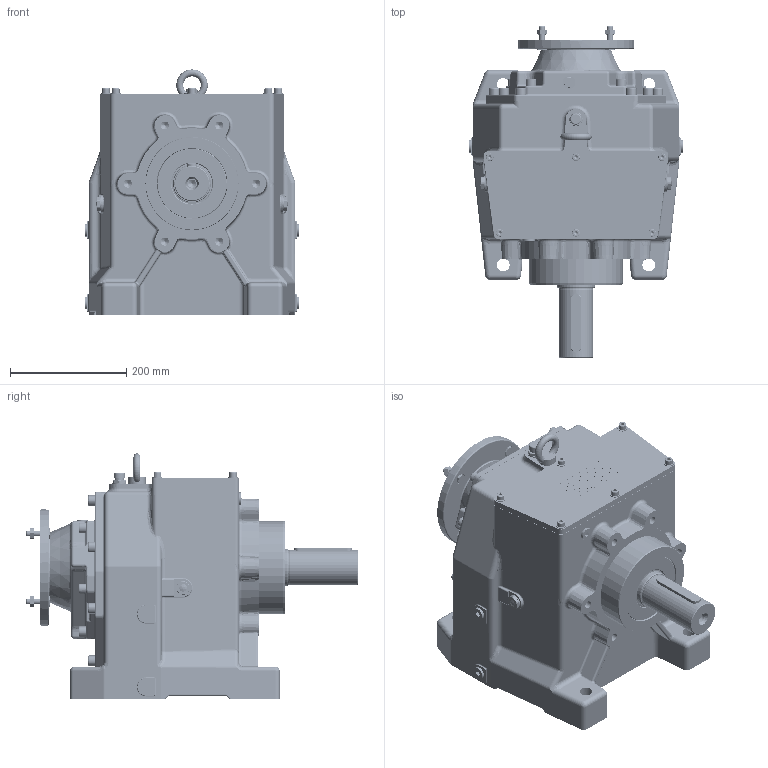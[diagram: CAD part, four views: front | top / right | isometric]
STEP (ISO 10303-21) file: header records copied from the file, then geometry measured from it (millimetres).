
FILE_DESCRIPTION((''),'2;1');
FILE_NAME('O:\Figurini\Figurini NHL\3D\60_3\MNHL 60_3\MNHL 60_3 PAM80 B5.stp','2013-09-10T10:49:12',('d.iannaccio'),(''),'Autodesk Inventor 2012','Autodesk Inventor 2012','');
FILE_SCHEMA(('AUTOMOTIVE_DESIGN { 1 0 10303 214 1 1 1 1 }'));
Length unit declared in the file: millimetre
Products named in the file (1): MNHL_60_3 PAM80 B5
Bounding box: 368 x 570 x 420.97 mm (x, y, z)
Volume: 11650580.7 mm3; surface area: 1920732 mm2
Topology: 51 solids, 53 shells, 6888 faces, 15974 edges, 9208 vertices
Faces by surface type: cylinder 2631, plane 1740, torus 1109, bspline 736, sphere 445, cone 227
Full cylindrical faces by diameter (mm): 6.647 x12, 8 x30, 8.4 x6, 8.5 x4, 9 x12, 10 x12, 10.106 x10, 11.5 x4, 12 x22, 13 x21, 13.835 x7, 14.63 x4, 14.95 x7, 16 x1, 17 x7, 18 x14, 18.98 x1, 19 x2, 19.5 x1, 19.7 x1, 20 x1, 22 x5, 23 x1, 26 x1, 28 x1, 30 x2, 37.5 x1, 39.37 x1, 39.97 x2, 47 x1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
Entity records: 224146 total; most frequent: CARTESIAN_POINT 65805, DIRECTION 33097, ORIENTED_EDGE 30308, EDGE_CURVE 15154, AXIS2_PLACEMENT_3D 13545, VERTEX_POINT 9001, EDGE_LOOP 7620, CIRCLE 6980
